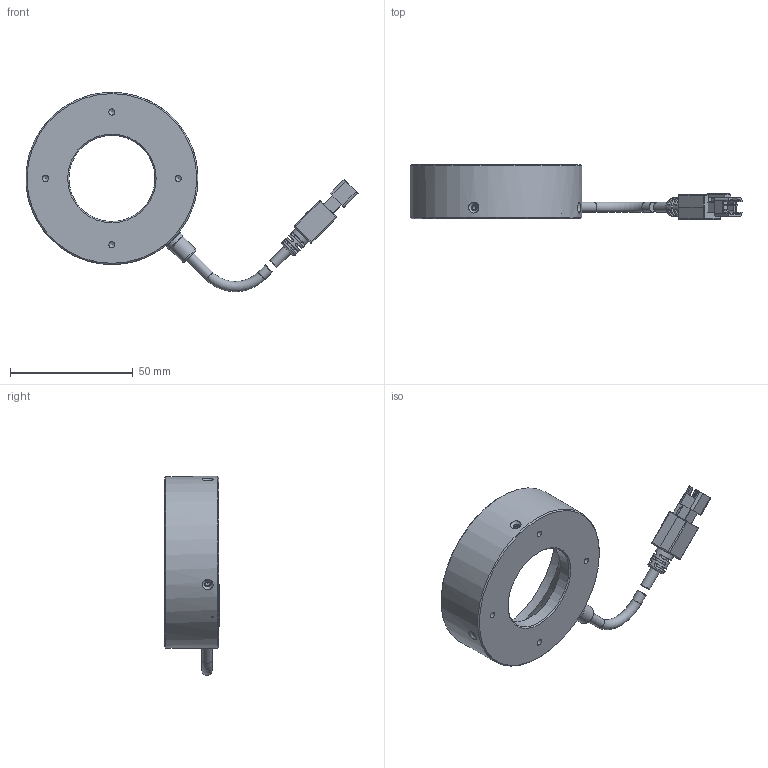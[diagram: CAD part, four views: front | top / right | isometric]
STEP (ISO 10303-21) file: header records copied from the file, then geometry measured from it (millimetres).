
FILE_DESCRIPTION (( 'STEP AP203' ), '1' );
FILE_NAME ('OPT-RI7045-X-V5.0尨砩芞.STEP', '2024-12-12T07:42:20', ( '' ), ( '' ), 'SwSTEP 2.0', 'SolidWorks 2016', '' );
FILE_SCHEMA (( 'CONFIG_CONTROL_DESIGN' ));
Length unit declared in the file: millimetre
Products named in the file (1): OPT-RI7045-X-V5.0尨砩芞
Bounding box: 134.96 x 22.2 x 81.02 mm (x, y, z)
Volume: 44949.1 mm3; surface area: 20737.8 mm2
Topology: 7 solids, 7 shells, 370 faces, 948 edges, 599 vertices
Faces by surface type: plane 179, cylinder 123, cone 34, bspline 25, torus 9
Full cylindrical faces by diameter (mm): 1.05 x2, 1.1 x6, 1.6 x4, 2 x4, 2.4 x4, 2.5 x4, 3.5 x1, 4.1 x4, 5.8 x1, 7.5 x2, 8 x1, 35 x1, 62 x1, 66 x1, 70 x1
Entity records: 11977 total; most frequent: CARTESIAN_POINT 3588, DIRECTION 1676, ORIENTED_EDGE 1664, EDGE_CURVE 832, AXIS2_PLACEMENT_3D 592, VERTEX_POINT 564, LINE 492, VECTOR 492
